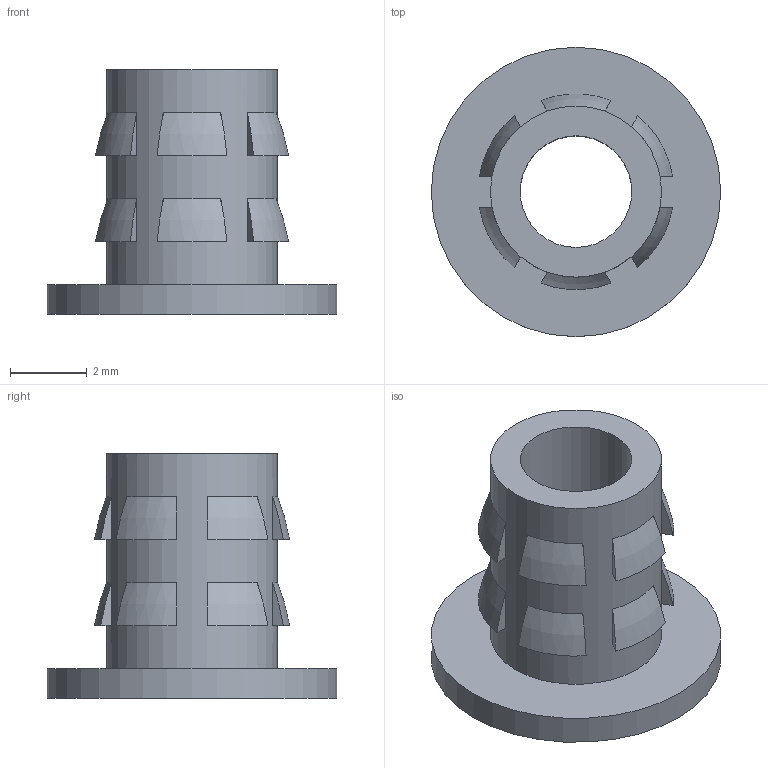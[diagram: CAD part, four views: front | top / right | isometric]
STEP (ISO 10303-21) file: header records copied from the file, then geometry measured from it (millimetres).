
FILE_DESCRIPTION (( 'STEP AP214' ), '1' );
FILE_NAME ('flanged insert M3.5.STEP', '2017-08-09T09:08:01', ( '微软用户' ), ( '微软中国' ), 'SwSTEP 2.0', 'SolidWorks 2015', '' );
FILE_SCHEMA (( 'AUTOMOTIVE_DESIGN' ));
Length unit declared in the file: millimetre
Products named in the file (1): flanged insert M3.5
Bounding box: 7.52 x 7.52 x 6.35 mm (x, y, z)
Volume: 81 mm3; surface area: 241.7 mm2
Topology: 1 solids, 1 shells, 55 faces, 119 edges, 79 vertices
Faces by surface type: plane 39, torus 12, cylinder 3, cone 1
Full cylindrical faces by diameter (mm): 2.9 x1, 4.445 x1, 7.518 x1
Entity records: 1581 total; most frequent: CARTESIAN_POINT 342, DIRECTION 246, ORIENTED_EDGE 230, EDGE_CURVE 115, AXIS2_PLACEMENT_3D 99, VERTEX_POINT 79, EDGE_LOOP 74, FACE_OUTER_BOUND 58
